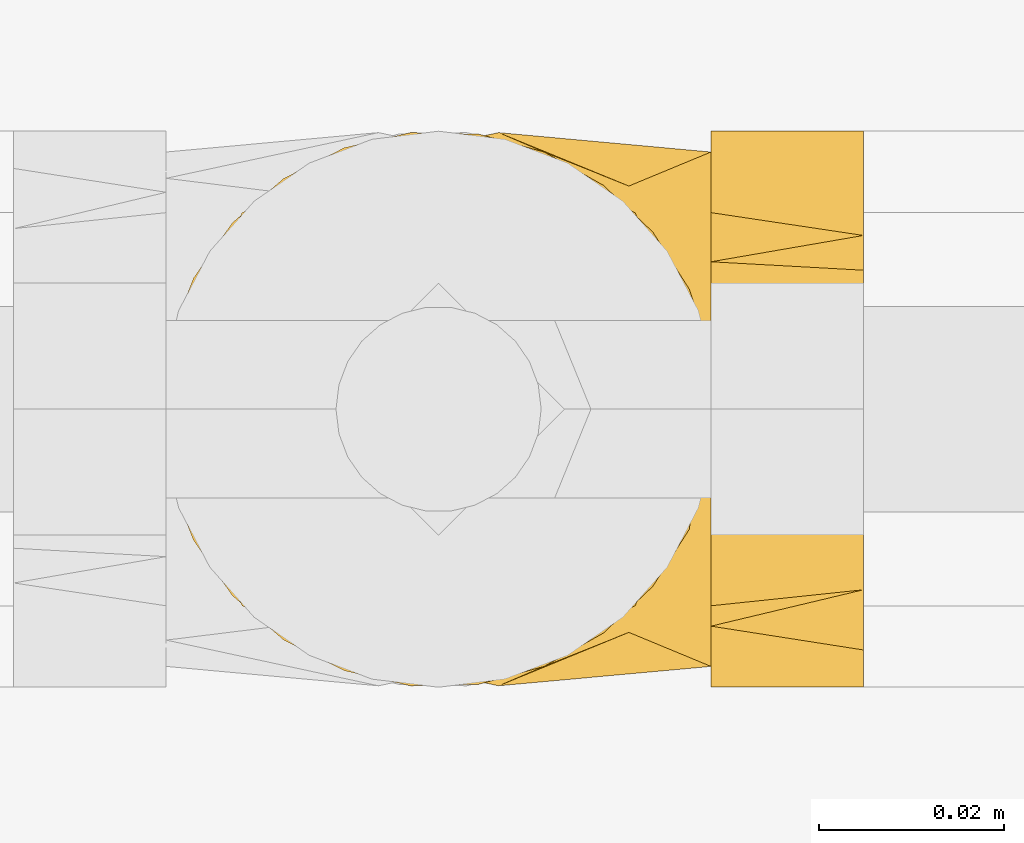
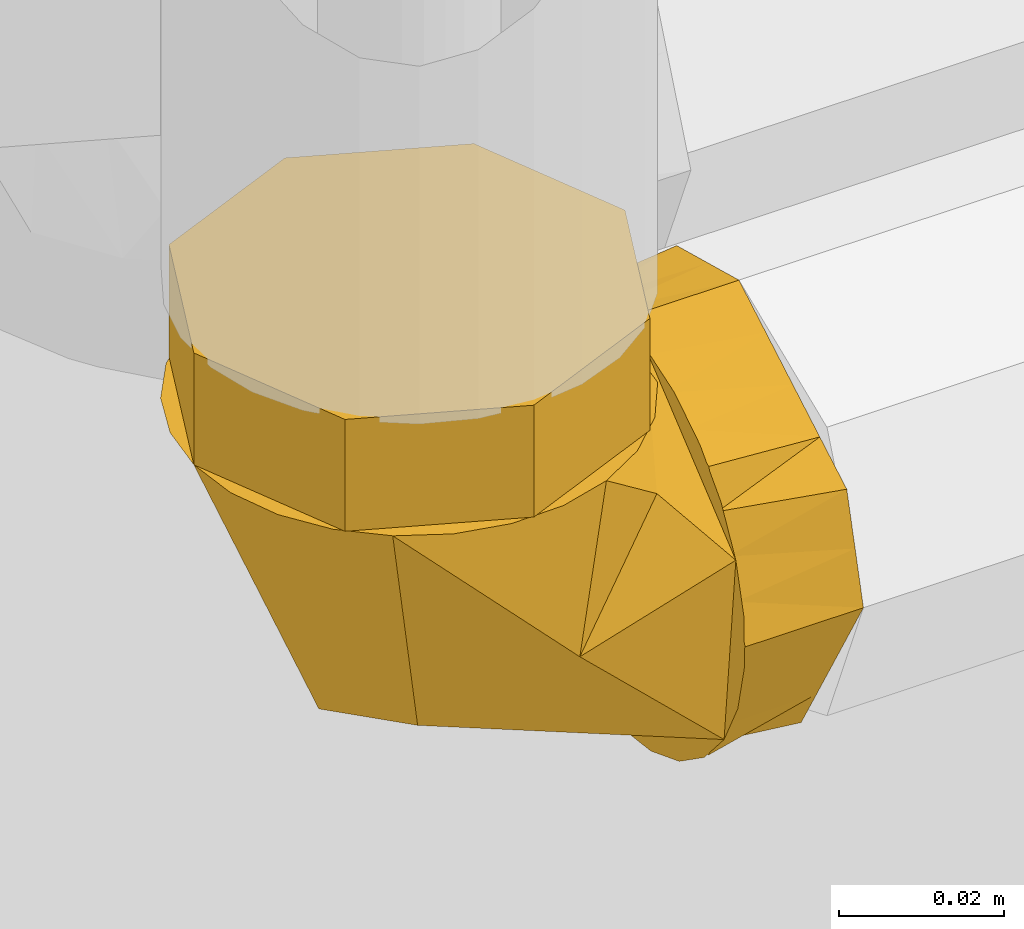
# One storey, part 152 of 652: 1 covering.
"""IFC2X3 building model written with IfcOpenShell, lengths in millimetres."""

from ifc_helpers import new_model, entity, si_unit, converted_unit, direction, frame, origin, place, context, subcontext, project, spatial, face_set, surface_model, material, type_object, element, save


model = new_model("IFC2X3")

# Units and contexts
model_context = context("Model", 3, precision=0.01, world=frame((0.0, 0.0, 308426.39999999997)), true_north=direction((6.123233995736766e-17, 1.0)))
plan_context = context("Plan", 3, precision=0.01, world=frame((0.0, 0.0, 308426.39999999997)), true_north=direction((6.123233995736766e-17, 1.0)))
body_context = subcontext(model_context, "Body", "Model", "MODEL_VIEW")
ifc_project = project(units=[si_unit("LENGTHUNIT", "METRE", prefix="MILLI"), si_unit("AREAUNIT", "SQUARE_METRE"), si_unit("VOLUMEUNIT", "CUBIC_METRE"), converted_unit("PLANEANGLEUNIT", "DEGREE", entity("IfcPlaneAngleMeasure", 0.017453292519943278), si_unit("PLANEANGLEUNIT", "RADIAN"), dimensions=[0, 0, 0, 0, 0, 0, 0])], contexts=[model_context, plan_context])

# Site, building, storey
site_placement = place(None, origin())
site = spatial("IfcSite", under=ifc_project, at=site_placement, Name="Default", CompositionType="ELEMENT")
building_placement = place(site_placement, origin())
building = spatial("IfcBuilding", under=site, at=building_placement, CompositionType="ELEMENT")
storey_placement = place(building_placement, frame((0.0, 0.0, 1730.6999999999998)))
storey = spatial("IfcBuildingStorey", under=building, at=storey_placement, Name="EG_Produktion_FFB", CompositionType="ELEMENT", Elevation=1730.6999999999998)

# Covering
ifc_material = material(Name="Dämmung - Armaflex-Schlauch")
covering_type = type_object("IfcCoveringType", Name="Rohrdämmung außen:Armaflex-Schlauch", PredefinedType="INSULATION")
covering_placement = place(storey_placement, frame((19438.292227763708, 59818.292227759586, 3946.017250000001)))
element("IfcCovering", 1, at=covering_placement, inside=storey, type_object=covering_type, material=ifc_material, Name="Rohrdämmung außen:Armaflex-Schlauch", ObjectType="Rohrdämmung außen:Armaflex-Schlauch", PredefinedType="INSULATION", context=body_context, shape_type="SurfaceModel", body=[
    surface_model("IfcFaceBasedSurfaceModel", [(61.21227223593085, 37.728331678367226, -16.51275000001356), (58.87053868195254, 18.70981950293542, -16.51275000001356), (54.90616939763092, 12.508891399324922, -16.51275000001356), (49.55598588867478, 7.4548564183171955, -16.512750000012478), (43.139594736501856, 3.8496299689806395, -16.512750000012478), (36.0402951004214, 1.9085792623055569, -16.512750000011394), (28.682181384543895, 1.7476578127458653, -16.512750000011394), (21.504808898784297, 3.37647866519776, -16.512750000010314), (14.936935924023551, 6.697740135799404, -16.512750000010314), (9.370910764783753, 11.513038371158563, -16.51275000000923), (5.139233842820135, 17.53471949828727, -16.51275000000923), (2.4946949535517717, 24.40306334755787, -16.51275000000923), (1.5952722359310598, 31.70777223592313, -16.51275000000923), (2.4946949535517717, 39.01248112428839, -16.51275000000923), (5.139233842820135, 45.880824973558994, -16.51275000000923), (9.370910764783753, 51.902506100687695, -16.51275000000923), (14.936935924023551, 56.71780433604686, -16.512750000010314), (21.504808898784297, 60.0390658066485, -16.512750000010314), (28.682181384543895, 61.6678866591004, -16.512750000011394), (36.0402951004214, 61.50696520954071, -16.512750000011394), (43.139594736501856, 59.565914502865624, -16.512750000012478), (49.55598588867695, 55.96068805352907, -16.512750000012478), (54.90616939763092, 50.906653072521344, -16.51275000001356), (58.87053868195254, 44.70572496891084, -16.51275000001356), (61.21227223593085, 25.687212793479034, -16.51275000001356), (61.21227223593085, 44.70572496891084, -18.85448355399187), (61.21227223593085, 50.906653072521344, -22.81885283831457), (61.21227223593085, 55.96068805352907, -28.169036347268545), (61.21227223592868, 59.565914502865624, -34.58542749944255), (61.21227223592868, 61.50696520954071, -41.68472713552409), (61.21227223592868, 61.6678866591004, -49.04284085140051), (61.21227223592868, 60.0390658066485, -56.22021333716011), (61.21227223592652, 56.71780433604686, -62.78808631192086), (61.21227223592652, 51.902506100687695, -68.35411147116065), (61.21227223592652, 45.880824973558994, -72.5857883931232), (61.21227223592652, 39.01248112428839, -75.23032728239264), (61.21227223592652, 31.70777223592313, -76.12975000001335), (61.21227223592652, 24.40306334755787, -75.23032728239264), (61.21227223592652, 17.53471949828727, -72.5857883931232), (61.21227223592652, 11.513038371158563, -68.35411147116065), (61.21227223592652, 6.697740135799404, -62.78808631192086), (61.21227223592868, 3.37647866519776, -56.22021333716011), (61.21227223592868, 1.7476578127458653, -49.04284085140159), (61.21227223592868, 1.9085792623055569, -41.68472713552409), (61.21227223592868, 3.8496299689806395, -34.58542749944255), (61.21227223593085, 7.4548564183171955, -28.169036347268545), (61.21227223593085, 12.508891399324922, -22.81885283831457), (61.21227223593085, 18.70981950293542, -18.85448355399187), (52.31808717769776, 55.881026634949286, -23.87799066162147), (61.21173036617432, 48.44892214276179, -25.38313134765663), (52.34134157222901, 48.44892214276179, -16.512742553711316), (21.25486696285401, 51.802205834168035, -49.6833922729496), (8.14403932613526, 43.98407839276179, -16.512742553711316), (38.20964601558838, 61.66671999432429, -39.51482690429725), (61.21173036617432, 58.14135378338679, -48.686941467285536), (19.056163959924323, 31.705758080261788, -58.668308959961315), (61.21173036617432, 44.21197145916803, -69.4589293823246), (29.038112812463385, 58.14135378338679, -16.512742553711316), (52.31808717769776, 7.5351404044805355, -23.87799066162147), (52.34134157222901, 14.967244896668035, -16.512742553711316), (21.25486696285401, 11.613961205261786, -49.6833922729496), (8.14403932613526, 19.432088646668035, -16.512742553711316), (61.21173036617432, 14.767257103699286, -25.548818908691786), (38.20964601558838, 1.749447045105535, -39.51482690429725), (61.21173036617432, 19.204195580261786, -69.4589293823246), (29.038112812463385, 5.274813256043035, -16.512742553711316), (61.21173036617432, 5.274813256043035, -48.686941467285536), (8.210082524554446, 47.677336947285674, 0.0), (6.005145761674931, 42.35414871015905, 0.0), (3.8002089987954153, 37.03096047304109, 0.0), (1.5952722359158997, 31.70777223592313, 0.0), (4.4380643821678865, 24.844664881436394, 0.0), (6.005145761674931, 21.06139576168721, 0.0), (8.210082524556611, 15.738207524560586, 0.0), (10.415019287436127, 10.415019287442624, 0.0), (15.738207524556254, 8.21008252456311, 0.0), (21.061395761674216, 6.005145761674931, 0.0), (26.384583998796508, 3.8002089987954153, 0.0), (31.707772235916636, 1.5952722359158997, 0.0), (38.570879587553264, 4.438064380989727, 0.0), (42.35414871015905, 6.005145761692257, 0.0), (47.67733694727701, 8.21008252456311, 0.0), (53.00052518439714, 10.415019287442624, 0.0), (55.20546194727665, 15.738207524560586, 0.0), (57.41039871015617, 21.061395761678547, 0.0), (59.61533547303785, 26.38458399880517, 0.0), (61.82027223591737, 31.70777223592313, 0.0), (58.977480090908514, 38.57087958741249, 0.0), (57.41039871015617, 42.35414871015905, 0.0), (55.20546194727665, 47.677336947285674, 0.0), (53.00052518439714, 53.000525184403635, 0.0), (47.67733694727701, 55.20546194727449, 0.0), (42.354148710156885, 57.41039871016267, 0.0), (37.030960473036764, 59.61533547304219, 0.0), (31.707772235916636, 61.8202722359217, 0.0), (24.844664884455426, 58.97748009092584, 0.0), (21.06139576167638, 57.41039871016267, 0.0), (15.738207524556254, 55.205461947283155, 0.0), (10.415019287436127, 53.000525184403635, 0.0), (31.707772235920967, 1.5952722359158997, -16.512750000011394), (26.38458399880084, 3.800208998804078, -16.512750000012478), (21.061395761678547, 6.005145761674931, -16.512750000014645), (15.738207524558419, 8.21008252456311, -16.51275000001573), (10.415019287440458, 10.415019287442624, -16.512750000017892), (7.280856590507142, 17.98155737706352, -16.512750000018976), (4.438064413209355, 24.844664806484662, -16.512750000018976), (1.5952722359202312, 31.70777223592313, -16.51275000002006), (3.800208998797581, 37.03096047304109, -16.512750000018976), (6.005145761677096, 42.35414871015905, -16.512750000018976), (8.210082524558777, 47.677336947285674, -16.512750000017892), (10.415019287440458, 53.000525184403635, -16.512750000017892), (17.981557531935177, 56.13468794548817, -16.51275000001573), (24.84466488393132, 58.977480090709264, -16.51275000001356), (31.707772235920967, 61.8202722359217, -16.512750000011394), (37.03096047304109, 59.61533547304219, -16.512750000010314), (42.35414871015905, 57.41039871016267, -16.512750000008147), (47.67733694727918, 55.20546194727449, -16.512750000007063), (53.000525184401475, 53.000525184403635, -16.5127500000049), (56.134687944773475, 45.43398694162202, -16.512750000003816), (58.97748009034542, 38.57087958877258, -16.512750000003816), (61.8202722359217, 31.70777223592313, -16.512750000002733), (59.61533547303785, 26.384583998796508, -16.512750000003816), (57.41039871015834, 21.061395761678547, -16.512750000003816), (55.20546194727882, 15.738207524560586, -16.512750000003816), (53.000525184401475, 10.415019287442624, -16.5127500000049), (45.433986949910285, 7.280856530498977, -16.512750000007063), (38.57087959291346, 4.438064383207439, -16.51275000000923), (77.72502223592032, 31.70777223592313, -76.12975000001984), (77.72502223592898, 38.227319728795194, -72.36568750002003), (77.72502223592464, 44.74686722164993, -68.6016250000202), (77.72502223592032, 51.26641471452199, -64.83756250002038), (77.72502223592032, 57.78596220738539, -61.07350000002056), (77.72502223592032, 59.803117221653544, -53.54537500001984), (77.72502223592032, 61.8202722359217, -46.0172500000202), (77.72502223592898, 58.0562097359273, -39.49770250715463), (77.72502223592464, 54.292147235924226, -32.97815501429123), (77.72502223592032, 50.528084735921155, -26.458607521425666), (77.72502223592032, 46.764022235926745, -19.939060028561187), (77.72502223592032, 39.23589723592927, -17.921905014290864), (77.72502223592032, 31.70777223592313, -15.904750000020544), (77.72502223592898, 25.18822474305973, -19.668812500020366), (77.72502223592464, 18.668677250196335, -23.432875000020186), (77.72502223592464, 12.149129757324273, -27.196937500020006), (77.72502223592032, 5.629582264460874, -30.961000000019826), (77.72502223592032, 3.6124272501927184, -38.48912500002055), (77.72502223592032, 1.5952722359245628, -46.0172500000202), (77.72502223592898, 5.359334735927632, -52.53679749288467), (77.72502223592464, 9.12339723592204, -59.056344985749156), (77.72502223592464, 12.887459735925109, -65.57589247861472), (77.72502223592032, 16.651522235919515, -72.09543997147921), (77.72502223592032, 24.179647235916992, -74.11259498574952), (61.21227223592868, 31.70777223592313, -76.12975000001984), (61.21227223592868, 26.38458399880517, -73.92481323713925), (61.21227223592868, 21.06139576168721, -71.71987647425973), (61.21227223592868, 15.738207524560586, -69.51493971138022), (61.21227223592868, 10.415019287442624, -67.31000294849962), (61.21227223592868, 8.210082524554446, -61.986814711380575), (61.21227223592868, 6.005145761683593, -56.66362647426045), (61.21227223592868, 3.800208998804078, -51.34043823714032), (61.21227223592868, 1.5952722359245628, -46.0172500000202), (61.21227223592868, 3.800208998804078, -40.69406176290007), (61.21227223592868, 6.005145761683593, -35.37087352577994), (61.21227223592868, 8.210082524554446, -30.047685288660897), (61.21227223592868, 10.415019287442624, -24.724497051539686), (61.21227223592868, 15.738207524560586, -22.519560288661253), (61.21227223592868, 21.06139576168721, -20.314623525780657), (61.21227223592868, 26.38458399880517, -18.109686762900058), (61.21227223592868, 31.70777223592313, -15.904750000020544), (61.21227223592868, 37.03096047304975, -18.10968676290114), (61.21227223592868, 42.35414871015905, -20.314623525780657), (61.21227223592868, 47.677336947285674, -22.519560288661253), (61.21227223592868, 53.000525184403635, -24.724497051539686), (61.21227223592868, 55.205461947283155, -30.047685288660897), (61.21227223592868, 57.41039871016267, -35.37087352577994), (61.21227223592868, 59.61533547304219, -40.69406176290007), (61.21227223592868, 61.8202722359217, -46.0172500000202), (61.21227223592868, 59.61533547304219, -51.34043823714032), (61.21227223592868, 57.41039871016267, -56.66362647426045), (61.21227223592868, 55.205461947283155, -61.986814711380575), (61.21227223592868, 53.000525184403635, -67.31000294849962), (61.21227223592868, 47.67733694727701, -69.51493971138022), (61.21227223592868, 42.35414871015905, -71.71987647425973), (61.21227223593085, 37.03096047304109, -73.92481323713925)], [face_set([[[0, 1, 2, 3, 4, 5, 6, 7, 8, 9, 10, 11, 12, 13, 14, 15, 16, 17, 18, 19, 20, 21, 22, 23]], [[24, 25, 26, 27, 28, 29, 30, 31, 32, 33, 34, 35, 36, 37, 38, 39, 40, 41, 42, 43, 44, 45, 46, 47]], [[48, 0, 49]], [[50, 48, 20]], [[51, 52, 16]], [[53, 20, 48]], [[53, 28, 54]], [[48, 49, 28]], [[32, 51, 53]], [[55, 51, 56]], [[28, 53, 48]], [[56, 36, 55]], [[55, 52, 51]], [[48, 50, 0]], [[55, 12, 52]], [[53, 16, 57, 20]], [[16, 53, 51]], [[54, 32, 53]], [[51, 32, 56]], [[58, 59, 4]], [[60, 61, 55]], [[24, 58, 62]], [[58, 4, 63]], [[8, 60, 63]], [[55, 64, 60]], [[24, 59, 58]], [[65, 8, 63, 4]], [[44, 58, 63]], [[58, 44, 62]], [[61, 60, 8]], [[61, 12, 55]], [[63, 40, 66]], [[40, 63, 60]], [[66, 44, 63]], [[64, 55, 36]], [[64, 40, 60]]]), face_set([[[67, 68, 69, 70, 71, 72, 73, 74, 75, 76, 77, 78, 79, 80, 81, 82, 83, 84, 85, 86, 87, 88, 89, 90, 91, 92, 93, 94, 95, 96, 97, 98]], [[99, 100, 101, 102, 103, 104, 105, 106, 107, 108, 109, 110, 111, 112, 113, 114, 115, 116, 117, 118, 119, 120, 121, 122, 123, 124, 125, 126]], [[105, 104, 103, 74, 73, 72, 71, 70, 106]], [[74, 103, 102, 101, 100, 99, 78, 77, 76, 75]], [[126, 125, 124, 82, 81, 80, 79, 78, 99]], [[82, 124, 123, 122, 121, 120, 86, 85, 84, 83]], [[119, 118, 117, 90, 89, 88, 87, 86, 120]], [[90, 117, 116, 115, 114, 113, 94, 93, 92, 91]], [[112, 111, 110, 98, 97, 96, 95, 94, 113]], [[98, 110, 109, 108, 107, 106, 70, 69, 68, 67]]]), face_set([[[127, 128, 129, 130, 131, 132, 133, 134, 135, 136, 137, 138, 139, 140, 141, 142, 143, 144, 145, 146, 147, 148, 149, 150]], [[151, 152, 153, 154, 155, 156, 157, 158, 159, 160, 161, 162, 163, 164, 165, 166, 167, 168, 169, 170, 171, 172, 173, 174, 175, 176, 177, 178, 179, 180, 181, 182]], [[170, 136, 171]], [[133, 174, 134]], [[174, 173, 134]], [[138, 169, 168]], [[168, 167, 139]], [[136, 170, 137]], [[135, 173, 172]], [[133, 175, 174]], [[173, 135, 134]], [[139, 138, 168]], [[172, 171, 136]], [[170, 169, 137]], [[138, 137, 169]], [[135, 172, 136]], [[178, 130, 179]], [[127, 182, 128]], [[182, 181, 128]], [[132, 177, 176]], [[176, 175, 133]], [[130, 178, 131]], [[129, 181, 180]], [[127, 151, 182]], [[181, 129, 128]], [[133, 132, 176]], [[180, 179, 130]], [[178, 177, 131]], [[132, 131, 177]], [[129, 180, 130]], [[154, 148, 155]], [[145, 158, 146]], [[158, 157, 146]], [[150, 153, 152]], [[152, 151, 127]], [[148, 154, 149]], [[147, 157, 156]], [[145, 159, 158]], [[157, 147, 146]], [[127, 150, 152]], [[156, 155, 148]], [[154, 153, 149]], [[150, 149, 153]], [[147, 156, 148]], [[162, 142, 163]], [[139, 166, 140]], [[166, 165, 140]], [[144, 161, 160]], [[160, 159, 145]], [[142, 162, 143]], [[141, 165, 164]], [[139, 167, 166]], [[165, 141, 140]], [[145, 144, 160]], [[164, 163, 142]], [[162, 161, 143]], [[144, 143, 161]], [[141, 164, 142]]])]),
])

save(model, "model.ifc")
